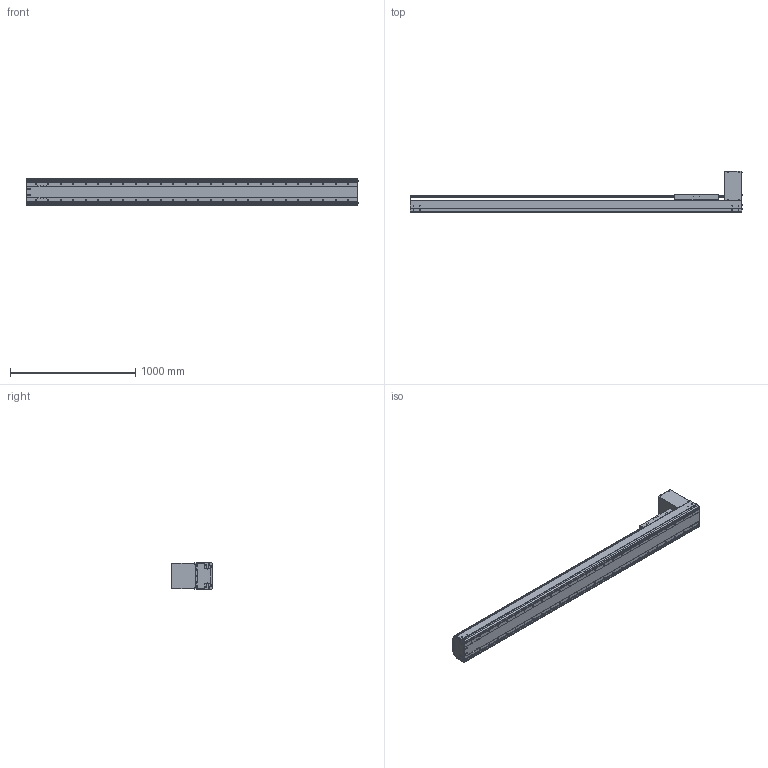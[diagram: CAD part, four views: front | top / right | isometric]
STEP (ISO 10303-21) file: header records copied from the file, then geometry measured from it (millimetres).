
FILE_DESCRIPTION((''),'2;1');
FILE_NAME('BE60J-BT-L19N-L5_IGS_PRT','2017-06-18T',(' '),(''),'PRO/ENGINEER BY PARAMETRIC TECHNOLOGY CORPORATION, 2015030','PRO/ENGINEER BY PARAMETRIC TECHNOLOGY CORPORATION, 2015030','');
FILE_SCHEMA(('CONFIG_CONTROL_DESIGN'));
Products named in the file (1): BE60J-BT-L19N-L5_IGS_PRT
Bounding box: 2654.4 x 327.5 x 214 mm (x, y, z)
Volume: 18833260.6 mm3; surface area: 5751192.4 mm2
Topology: 6 solids, 336 shells, 2447 faces, 6963 edges, 4670 vertices
Faces by surface type: cylinder 1218, plane 871, cone 262, torus 48, sphere 48
Entity records: 82088 total; most frequent: CARTESIAN_POINT 19025, DIRECTION 13166, ORIENTED_EDGE 12340, EDGE_CURVE 6738, AXIS2_PLACEMENT_3D 5010, VERTEX_POINT 4636, VECTOR 3146, LINE 3146
